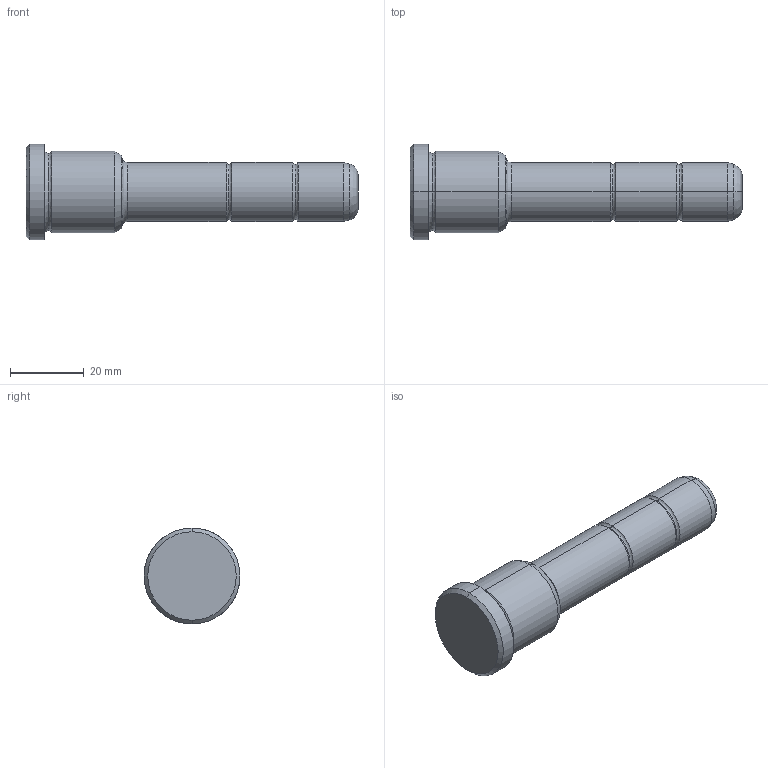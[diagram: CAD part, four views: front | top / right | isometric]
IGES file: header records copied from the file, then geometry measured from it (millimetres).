
Start section: START RECORD GO HERE.
Global section: file name: 351-16X26X90.igs; native system: DASSAULT SYSTEMES CATIA V5 R20 - www.3ds.com; preprocessor: CATIA Version 5 Release 20 ; author: Utente; organization: NB04-ASUS; date: 20210818.125153; units: millimetre
Bounding box: 90 x 26 x 26 mm (x, y, z)
Surface area: 5960 mm2 (no closed solid volume)
Topology: 0 solids, 0 shells, 36 faces, 204 edges, 204 vertices
Faces by surface type: revolution 32, plane 4
